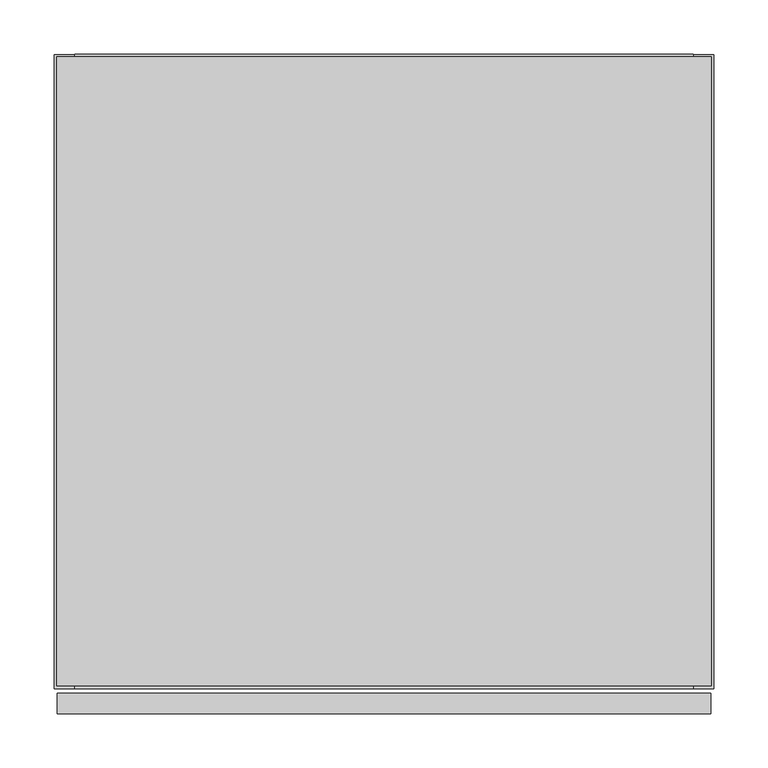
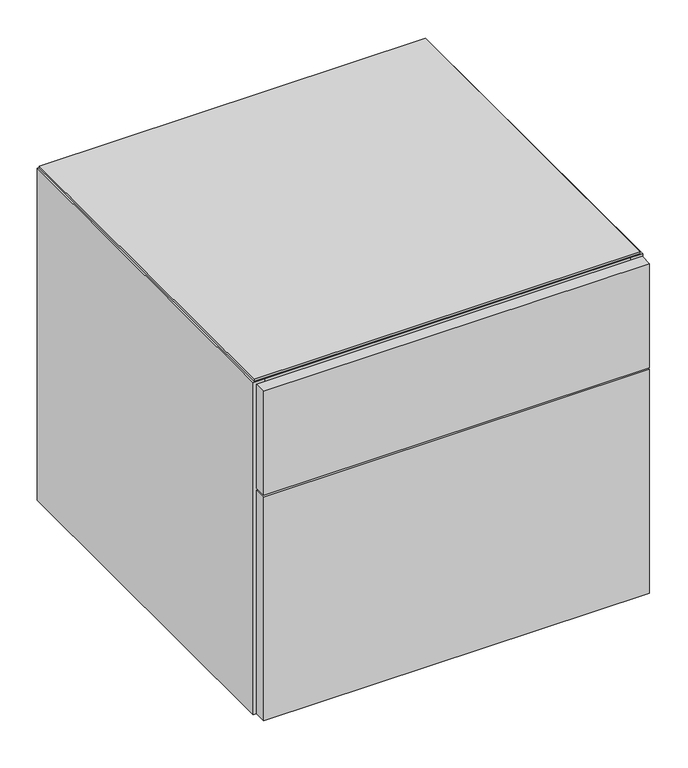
"""IFC4 building model written with IfcOpenShell, lengths in millimetres: furniture geometry, Geiger_GeigerOneCasegoods_LowStorage1Box1File : TFL 24Wx24Dx21.75H."""

from ifc_helpers import new_model, si_unit, point, frame, origin, place, context, project, spatial, polyline, circle_curve, ellipse_curve, trimmed, outline, extrude, source, transform, mapped, element, save
from ifc_brep_helpers import plane_surface, cylinder_surface, revolved_surface, advanced_brep


def furniture_ca8189b4(model_context):
    return source(origin(), model_context, "Body", "SolidModel", [
        extrude(outline(polyline([(19.0, -19.5), (590.6, -19.5), (590.6, -586.4), (19.0, -586.4), (19.0, -19.5)])), frame((0.0, 0.0, 73.2), z_axis=(0.0, 0.0, 1.0), x_axis=(1.0, 0.0, 0.0)), (0.0, 0.0, 1.0), 19.5072),
        extrude(outline(polyline([(3.0, -590.4), (606.6, -590.4), (606.6, -609.6), (3.0, -609.6), (3.0, -590.4)])), frame((0.0, 0.0, 15.7), z_axis=(0.0, 0.0, 1.0), x_axis=(1.0, 0.0, 0.0)), (0.0, 0.0, 1.0), 370.0),
        extrude(outline(polyline([(3.0, -590.4), (606.6, -590.4), (606.6, -609.6), (3.0, -609.6), (3.0, -590.4)])), frame((0.0, 0.0, 388.7), z_axis=(0.0, 0.0, 1.0), x_axis=(1.0, 0.0, 0.0)), (0.0, 0.0, 1.0), 172.2),
        extrude(outline(polyline([(19.0, -19.5), (590.6, -19.5), (590.6, -566.9), (19.0, -566.9), (19.0, -19.5)])), frame((0.0, 0.0, 12.7), z_axis=(0.0, 0.0, 1.0), x_axis=(1.0, 0.0, 0.0)), (0.0, 0.0, 1.0), 19.5),
        extrude(outline(polyline([(607.06, -2.54), (607.06, -583.86), (2.54, -583.86), (2.54, -2.54), (607.06, -2.54)])), frame((0.0, 0.0, 561.7), z_axis=(0.0, 0.0, 1.0), x_axis=(1.0, 0.0, 0.0)), (0.0, 0.0, 1.0), 3.2766),
        extrude(outline(polyline([(19.0, -95.7), (590.6, -95.7), (590.6, -586.4), (19.0, -586.4), (19.0, -95.7)])), frame((0.0, 0.0, 542.2), z_axis=(0.0, 0.0, 1.0), x_axis=(1.0, 0.0, 0.0)), (0.0, 0.0, 1.0), 19.5),
        extrude(outline(polyline([(590.6, -19.5), (19.0, -19.5), (19.0, 0.0), (590.6, 0.0), (590.6, -19.5)])), frame((0.0, 0.0, 12.7), z_axis=(0.0, 0.0, 1.0), x_axis=(1.0, 0.0, 0.0)), (0.0, 0.0, 1.0), 549.0),
        extrude(outline(polyline([(19.0, -566.9), (590.6, -566.9), (590.6, -586.4), (19.0, -586.4), (19.0, -566.9)])), frame((0.0, 0.0, 12.7), z_axis=(0.0, 0.0, 1.0), x_axis=(1.0, 0.0, 0.0)), (0.0, 0.0, 1.0), 60.5),
        extrude(outline(polyline([(19.0, -586.4), (0.0, -586.4), (0.0, -0.5), (19.0, -0.5), (19.0, -586.4)])), frame((0.0, 0.0, 12.7), z_axis=(0.0, 0.0, 1.0), x_axis=(1.0, 0.0, 0.0)), (0.0, 0.0, 1.0), 549.0),
        extrude(outline(polyline([(609.6, -586.4), (590.6, -586.4), (590.6, -0.5), (609.6, -0.5), (609.6, -586.4)])), frame((0.0, 0.0, 12.7), z_axis=(0.0, 0.0, 1.0), x_axis=(1.0, 0.0, 0.0)), (0.0, 0.0, 1.0), 549.0),
        advanced_brep(
        [(94.0575663, -528.9165105, 0.0), (71.9424337, -528.9165105, 0.0), (83.0, -528.9165105, 0.0), (94.0575663, -528.9165105, 9.5), (71.9424337, -528.9165105, 9.5), (87.066455, -528.9165105, 9.5), (78.933545, -528.9165105, 9.5), (87.066455, -528.9165105, 12.7), (78.933545, -528.9165105, 12.7), (83.0, -528.9165105, 12.7)],
        [
            (0, 1, circle_curve(frame((83.0, -528.9165105, 0.0), z_axis=(0.0, 0.0, -1.0), x_axis=(-1.0, 0.0, 0.0)), 11.0575663)),
            (1, 2),
            (2, 0),
            (1, 0, circle_curve(frame((83.0, -528.9165105, 0.0), z_axis=(0.0, 0.0, -1.0), x_axis=(-1.0, 0.0, 0.0)), 11.0575663)),
            (0, 3, circle_curve(frame((94.0575663, -528.9165105, 4.75), z_axis=(0.0, -1.0, 0.0), x_axis=(1.0, 0.0, 0.0)), 4.75)),
            (3, 4, circle_curve(frame((83.0, -528.9165105, 9.5), z_axis=(0.0, 0.0, -1.0), x_axis=(-1.0, 0.0, 0.0)), 11.0575663)),
            (4, 1, circle_curve(frame((71.9424337, -528.9165105, 4.75), z_axis=(0.0, -1.0, 0.0), x_axis=(-1.0, 0.0, 0.0)), 4.75)),
            (4, 3, circle_curve(frame((83.0, -528.9165105, 9.5), z_axis=(0.0, 0.0, -1.0), x_axis=(-1.0, 0.0, 0.0)), 11.0575663)),
            (3, 5),
            (5, 6, circle_curve(frame((83.0, -528.9165105, 9.5), z_axis=(0.0, 0.0, -1.0), x_axis=(-1.0, 0.0, 0.0)), 4.066455)),
            (6, 4),
            (6, 5, circle_curve(frame((83.0, -528.9165105, 9.5), z_axis=(0.0, 0.0, -1.0), x_axis=(-1.0, 0.0, 0.0)), 4.066455)),
            (5, 7),
            (7, 8, circle_curve(frame((83.0, -528.9165105, 12.7), z_axis=(0.0, 0.0, -1.0), x_axis=(-1.0, 0.0, 0.0)), 4.066455)),
            (8, 6),
            (8, 7, circle_curve(frame((83.0, -528.9165105, 12.7), z_axis=(0.0, 0.0, -1.0), x_axis=(-1.0, 0.0, 0.0)), 4.066455)),
            (7, 9),
            (9, 8),
        ],
        [
            plane_surface(frame((83.0, -528.9165105, 0.0), z_axis=(0.0, 0.0, -1.0), x_axis=(-1.0, 0.0, 0.0))),
            revolved_surface(trimmed(ellipse_curve(frame((71.9424337, -528.9165105, 4.75), z_axis=(0.0, 1.0, 0.0), x_axis=(-1.0, 0.0, 0.0)), 4.75, 4.75), [point((71.9424337, -528.9165105, 0.0))], [point((71.9424337, -528.9165105, 9.5))], True, "CARTESIAN"), (83.0, -528.9165105, 0.0), (0.0, 0.0, 1.0)),
            plane_surface(frame((83.0, -528.9165105, 9.5), z_axis=(0.0, 0.0, 1.0), x_axis=(-1.0, 0.0, 0.0))),
            cylinder_surface(frame((83.0, -528.9165105, 0.0), z_axis=(0.0, 0.0, 1.0), x_axis=(-1.0, 0.0, 0.0)), 4.066455),
            plane_surface(frame((83.0, -528.9165105, 12.7), z_axis=(0.0, 0.0, 1.0), x_axis=(-1.0, 0.0, 0.0))),
        ],
        [
            (0, [[1, 2, 3]]),
            (0, [[-2, 4, -3]]),
            (1, [[-1, 5, 6, 7]]),
            (1, [[-4, -7, 8, -5]]),
            (2, [[-6, 9, 10, 11]]),
            (2, [[-8, -11, 12, -9]]),
            (3, [[-10, 13, 14, 15]]),
            (3, [[-12, -15, 16, -13]]),
            (4, [[-14, 17, 18]]),
            (4, [[-16, -18, -17]]),
        ],
    ),
        advanced_brep(
        [(94.0575663, -127.0, 0.0), (71.9424337, -127.0, 0.0), (83.0, -127.0, 0.0), (94.0575663, -127.0, 9.5), (71.9424337, -127.0, 9.5), (87.066455, -127.0, 9.5), (78.933545, -127.0, 9.5), (87.066455, -127.0, 12.7), (78.933545, -127.0, 12.7), (83.0, -127.0, 12.7)],
        [
            (0, 1, circle_curve(frame((83.0, -127.0, 0.0), z_axis=(0.0, 0.0, -1.0), x_axis=(-1.0, 0.0, 0.0)), 11.0575663)),
            (1, 2),
            (2, 0),
            (1, 0, circle_curve(frame((83.0, -127.0, 0.0), z_axis=(0.0, 0.0, -1.0), x_axis=(-1.0, 0.0, 0.0)), 11.0575663)),
            (0, 3, circle_curve(frame((94.0575663, -127.0, 4.75), z_axis=(0.0, -1.0, 0.0), x_axis=(1.0, 0.0, 0.0)), 4.75)),
            (3, 4, circle_curve(frame((83.0, -127.0, 9.5), z_axis=(0.0, 0.0, -1.0), x_axis=(-1.0, 0.0, 0.0)), 11.0575663)),
            (4, 1, circle_curve(frame((71.9424337, -127.0, 4.75), z_axis=(0.0, -1.0, 0.0), x_axis=(-1.0, 0.0, 0.0)), 4.75)),
            (4, 3, circle_curve(frame((83.0, -127.0, 9.5), z_axis=(0.0, 0.0, -1.0), x_axis=(-1.0, 0.0, 0.0)), 11.0575663)),
            (3, 5),
            (5, 6, circle_curve(frame((83.0, -127.0, 9.5), z_axis=(0.0, 0.0, -1.0), x_axis=(-1.0, 0.0, 0.0)), 4.066455)),
            (6, 4),
            (6, 5, circle_curve(frame((83.0, -127.0, 9.5), z_axis=(0.0, 0.0, -1.0), x_axis=(-1.0, 0.0, 0.0)), 4.066455)),
            (5, 7),
            (7, 8, circle_curve(frame((83.0, -127.0, 12.7), z_axis=(0.0, 0.0, -1.0), x_axis=(-1.0, 0.0, 0.0)), 4.066455)),
            (8, 6),
            (8, 7, circle_curve(frame((83.0, -127.0, 12.7), z_axis=(0.0, 0.0, -1.0), x_axis=(-1.0, 0.0, 0.0)), 4.066455)),
            (7, 9),
            (9, 8),
        ],
        [
            plane_surface(frame((83.0, -127.0, 0.0), z_axis=(0.0, 0.0, -1.0), x_axis=(-1.0, 0.0, 0.0))),
            revolved_surface(trimmed(ellipse_curve(frame((71.9424337, -127.0, 4.75), z_axis=(0.0, 1.0, 0.0), x_axis=(-1.0, 0.0, 0.0)), 4.75, 4.75), [point((71.9424337, -127.0, 0.0))], [point((71.9424337, -127.0, 9.5))], True, "CARTESIAN"), (83.0, -127.0, 0.0), (0.0, 0.0, 1.0)),
            plane_surface(frame((83.0, -127.0, 9.5), z_axis=(0.0, 0.0, 1.0), x_axis=(-1.0, 0.0, 0.0))),
            cylinder_surface(frame((83.0, -127.0, 0.0), z_axis=(0.0, 0.0, 1.0), x_axis=(-1.0, 0.0, 0.0)), 4.066455),
            plane_surface(frame((83.0, -127.0, 12.7), z_axis=(0.0, 0.0, 1.0), x_axis=(-1.0, 0.0, 0.0))),
        ],
        [
            (0, [[1, 2, 3]]),
            (0, [[-2, 4, -3]]),
            (1, [[-1, 5, 6, 7]]),
            (1, [[-4, -7, 8, -5]]),
            (2, [[-6, 9, 10, 11]]),
            (2, [[-8, -11, 12, -9]]),
            (3, [[-10, 13, 14, 15]]),
            (3, [[-12, -15, 16, -13]]),
            (4, [[-14, 17, 18]]),
            (4, [[-16, -18, -17]]),
        ],
    ),
        advanced_brep(
        [(526.6, -528.9165105, 0.0), (537.6575663, -528.9165105, 0.0), (515.5424337, -528.9165105, 0.0), (537.6575663, -528.9165105, 9.5), (515.5424337, -528.9165105, 9.5), (530.666455, -528.9165105, 9.5), (522.533545, -528.9165105, 9.5), (530.666455, -528.9165105, 12.7), (522.533545, -528.9165105, 12.7), (526.6, -528.9165105, 12.7)],
        [
            (0, 1),
            (1, 2, circle_curve(frame((526.6, -528.9165105, 0.0), z_axis=(0.0, 0.0, -1.0), x_axis=(1.0, 0.0, 0.0)), 11.0575663)),
            (2, 0),
            (2, 1, circle_curve(frame((526.6, -528.9165105, 0.0), z_axis=(0.0, 0.0, -1.0), x_axis=(1.0, 0.0, 0.0)), 11.0575663)),
            (1, 3, circle_curve(frame((537.6575663, -528.9165105, 4.75), z_axis=(0.0, -1.0, 0.0), x_axis=(-1.0, 0.0, 0.0)), 4.75)),
            (3, 4, circle_curve(frame((526.6, -528.9165105, 9.5), z_axis=(0.0, 0.0, -1.0), x_axis=(1.0, 0.0, 0.0)), 11.0575663)),
            (4, 2, circle_curve(frame((515.5424337, -528.9165105, 4.75), z_axis=(0.0, -1.0, 0.0), x_axis=(1.0, 0.0, 0.0)), 4.75)),
            (4, 3, circle_curve(frame((526.6, -528.9165105, 9.5), z_axis=(0.0, 0.0, -1.0), x_axis=(1.0, 0.0, 0.0)), 11.0575663)),
            (3, 5),
            (5, 6, circle_curve(frame((526.6, -528.9165105, 9.5), z_axis=(0.0, 0.0, -1.0), x_axis=(1.0, 0.0, 0.0)), 4.066455)),
            (6, 4),
            (6, 5, circle_curve(frame((526.6, -528.9165105, 9.5), z_axis=(0.0, 0.0, -1.0), x_axis=(1.0, 0.0, 0.0)), 4.066455)),
            (5, 7),
            (7, 8, circle_curve(frame((526.6, -528.9165105, 12.7), z_axis=(0.0, 0.0, -1.0), x_axis=(1.0, 0.0, 0.0)), 4.066455)),
            (8, 6),
            (8, 7, circle_curve(frame((526.6, -528.9165105, 12.7), z_axis=(0.0, 0.0, -1.0), x_axis=(1.0, 0.0, 0.0)), 4.066455)),
            (7, 9),
            (9, 8),
        ],
        [
            plane_surface(frame((526.6, -528.9165105, 0.0), z_axis=(0.0, 0.0, -1.0), x_axis=(1.0, 0.0, 0.0))),
            revolved_surface(trimmed(ellipse_curve(frame((537.6575663, -528.9165105, 4.75), z_axis=(0.0, 1.0, 0.0), x_axis=(-1.0, 0.0, 0.0)), 4.75, 4.75), [point((537.6575663, -528.9165105, 9.5))], [point((537.6575663, -528.9165105, 0.0))], True, "CARTESIAN"), (526.6, -528.9165105, 0.0), (0.0, 0.0, -1.0)),
            plane_surface(frame((526.6, -528.9165105, 9.5), z_axis=(0.0, 0.0, 1.0), x_axis=(1.0, 0.0, 0.0))),
            cylinder_surface(frame((526.6, -528.9165105, 0.0), z_axis=(0.0, 0.0, -1.0), x_axis=(1.0, 0.0, 0.0)), 4.066455),
            plane_surface(frame((526.6, -528.9165105, 12.7), z_axis=(0.0, 0.0, 1.0), x_axis=(1.0, 0.0, 0.0))),
        ],
        [
            (0, [[1, 2, 3]]),
            (0, [[-1, -3, 4]]),
            (1, [[-2, 5, 6, 7]]),
            (1, [[-4, -7, 8, -5]]),
            (2, [[-6, 9, 10, 11]]),
            (2, [[-8, -11, 12, -9]]),
            (3, [[-10, 13, 14, 15]]),
            (3, [[-12, -15, 16, -13]]),
            (4, [[-14, 17, 18]]),
            (4, [[-16, -18, -17]]),
        ],
    ),
        advanced_brep(
        [(526.6, -127.0, 0.0), (537.6575663, -127.0, 0.0), (515.5424337, -127.0, 0.0), (537.6575663, -127.0, 9.5), (515.5424337, -127.0, 9.5), (530.666455, -127.0, 9.5), (522.533545, -127.0, 9.5), (530.666455, -127.0, 12.7), (522.533545, -127.0, 12.7), (526.6, -127.0, 12.7)],
        [
            (0, 1),
            (1, 2, circle_curve(frame((526.6, -127.0, 0.0), z_axis=(0.0, 0.0, -1.0), x_axis=(1.0, 0.0, 0.0)), 11.0575663)),
            (2, 0),
            (2, 1, circle_curve(frame((526.6, -127.0, 0.0), z_axis=(0.0, 0.0, -1.0), x_axis=(1.0, 0.0, 0.0)), 11.0575663)),
            (1, 3, circle_curve(frame((537.6575663, -127.0, 4.75), z_axis=(0.0, -1.0, 0.0), x_axis=(-1.0, 0.0, 0.0)), 4.75)),
            (3, 4, circle_curve(frame((526.6, -127.0, 9.5), z_axis=(0.0, 0.0, -1.0), x_axis=(1.0, 0.0, 0.0)), 11.0575663)),
            (4, 2, circle_curve(frame((515.5424337, -127.0, 4.75), z_axis=(0.0, -1.0, 0.0), x_axis=(1.0, 0.0, 0.0)), 4.75)),
            (4, 3, circle_curve(frame((526.6, -127.0, 9.5), z_axis=(0.0, 0.0, -1.0), x_axis=(1.0, 0.0, 0.0)), 11.0575663)),
            (3, 5),
            (5, 6, circle_curve(frame((526.6, -127.0, 9.5), z_axis=(0.0, 0.0, -1.0), x_axis=(1.0, 0.0, 0.0)), 4.066455)),
            (6, 4),
            (6, 5, circle_curve(frame((526.6, -127.0, 9.5), z_axis=(0.0, 0.0, -1.0), x_axis=(1.0, 0.0, 0.0)), 4.066455)),
            (5, 7),
            (7, 8, circle_curve(frame((526.6, -127.0, 12.7), z_axis=(0.0, 0.0, -1.0), x_axis=(1.0, 0.0, 0.0)), 4.066455)),
            (8, 6),
            (8, 7, circle_curve(frame((526.6, -127.0, 12.7), z_axis=(0.0, 0.0, -1.0), x_axis=(1.0, 0.0, 0.0)), 4.066455)),
            (7, 9),
            (9, 8),
        ],
        [
            plane_surface(frame((526.6, -127.0, 0.0), z_axis=(0.0, 0.0, -1.0), x_axis=(1.0, 0.0, 0.0))),
            revolved_surface(trimmed(ellipse_curve(frame((537.6575663, -127.0, 4.75), z_axis=(0.0, 1.0, 0.0), x_axis=(-1.0, 0.0, 0.0)), 4.75, 4.75), [point((537.6575663, -127.0, 9.5))], [point((537.6575663, -127.0, 0.0))], True, "CARTESIAN"), (526.6, -127.0, 0.0), (0.0, 0.0, -1.0)),
            plane_surface(frame((526.6, -127.0, 9.5), z_axis=(0.0, 0.0, 1.0), x_axis=(1.0, 0.0, 0.0))),
            cylinder_surface(frame((526.6, -127.0, 0.0), z_axis=(0.0, 0.0, -1.0), x_axis=(1.0, 0.0, 0.0)), 4.066455),
            plane_surface(frame((526.6, -127.0, 12.7), z_axis=(0.0, 0.0, 1.0), x_axis=(1.0, 0.0, 0.0))),
        ],
        [
            (0, [[1, 2, 3]]),
            (0, [[-1, -3, 4]]),
            (1, [[-2, 5, 6, 7]]),
            (1, [[-4, -7, 8, -5]]),
            (2, [[-6, 9, 10, 11]]),
            (2, [[-8, -11, 12, -9]]),
            (3, [[-10, 13, 14, 15]]),
            (3, [[-12, -15, 16, -13]]),
            (4, [[-14, 17, 18]]),
            (4, [[-16, -18, -17]]),
        ],
    ),
    ])


if __name__ == "__main__":
    model = new_model("IFC4")
    model_context = context("Model", 3, world=origin())
    ifc_project = project(units=[si_unit("LENGTHUNIT", "METRE", prefix="MILLI")], contexts=[model_context])
    site = spatial("IfcSite", under=ifc_project)
    building = spatial("IfcBuilding", under=site)
    placement = place(None, origin())
    furniture_shape = furniture_ca8189b4(model_context)
    element("IfcFurniture", 1, ObjectType="Geiger_GeigerOneCasegoods_LowStorage1Box1File : TFL 24Wx24Dx21.75H", at=placement, inside=building, context=model_context, shape_type="MappedRepresentation", body=[
        mapped(furniture_shape, transform((0.0, 0.0, 0.0), x_axis=(1.0, 0.0, 0.0), y_axis=(0.0, 1.0, 0.0), z_axis=(0.0, 0.0, 1.0))),
    ])
    save(model, "model.ifc")
